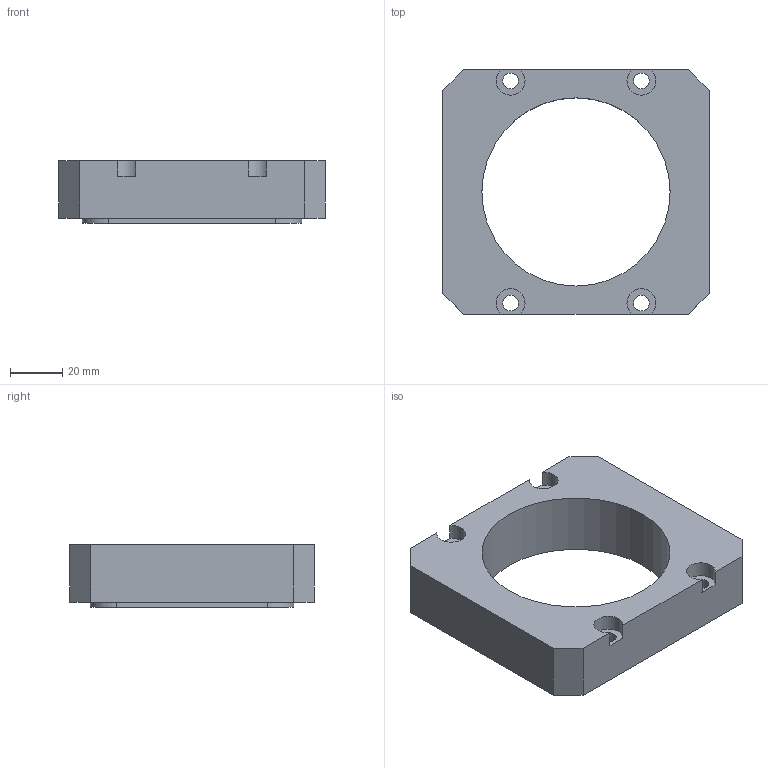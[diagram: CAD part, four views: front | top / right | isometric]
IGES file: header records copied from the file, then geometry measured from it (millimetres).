
Start section:  PTC IGES file: PI-K100.igs
Global section: file name: PI-K100.igs; native system: Pro/ENGINEER by Parametric Technology Corporation; preprocessor: 2009440; author: Owner; organization: Unknown; date: 20170720.103049; units: millimetre
Bounding box: 102 x 93.6 x 24 mm (x, y, z)
Surface area: 26398.2 mm2 (no closed solid volume)
Topology: 0 solids, 0 shells, 37 faces, 204 edges, 204 vertices
Faces by surface type: bspline 19, revolution 18
